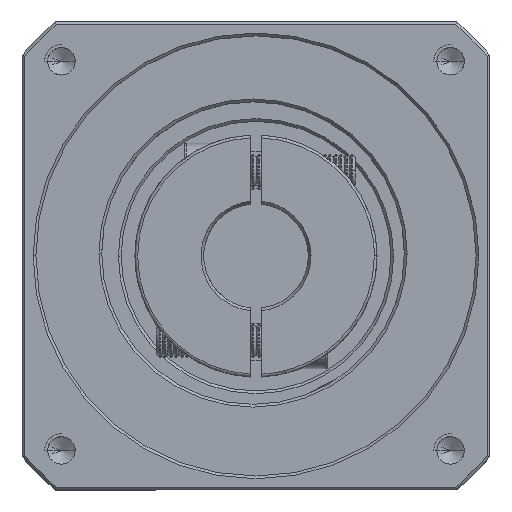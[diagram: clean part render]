
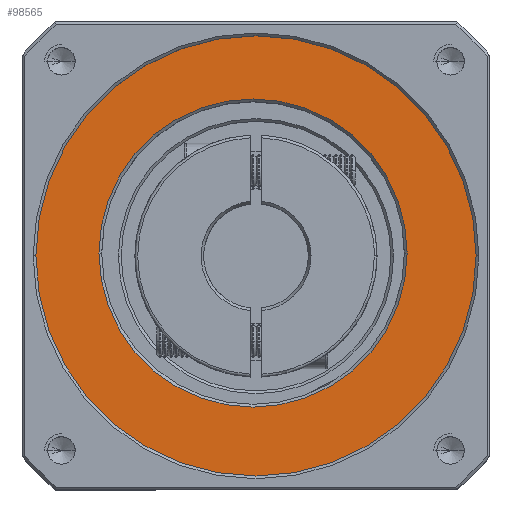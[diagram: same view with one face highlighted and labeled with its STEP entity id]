
A CAD part, top view. The second image highlights one B-rep face of the part: STEP entity #98565.
In plain terms, the highlighted planar face has unit normal (0, 0, 1).
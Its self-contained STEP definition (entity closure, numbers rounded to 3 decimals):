
#2171 = AXIS2_PLACEMENT_3D ( 'NONE', #33343, #98642, #42734 ) ;
#2364 = CARTESIAN_POINT ( 'NONE',  ( -77.067, 68.253, -61.843 ) ) ;
#2722 = CARTESIAN_POINT ( 'NONE',  ( -37.609, 68.787, -61.843 ) ) ;
#8242 = CARTESIAN_POINT ( 'NONE',  ( -65.609, 68.787, -61.843 ) ) ;
#9097 = FACE_OUTER_BOUND ( 'NONE', #119238, .T. ) ;
#9715 = CARTESIAN_POINT ( 'NONE',  ( -9.609, 68.787, -61.843 ) ) ;
#12129 = DIRECTION ( 'NONE',  ( 1., 0., 0. ) ) ;
#20845 = ORIENTED_EDGE ( 'NONE', *, *, #98331, .T. ) ;
#25222 = DIRECTION ( 'NONE',  ( 0., 0., 1. ) ) ;
#26428 = EDGE_CURVE ( 'NONE', #73227, #115757, #32576, .T. ) ;
#28482 = AXIS2_PLACEMENT_3D ( 'NONE', #81286, #25222, #90607 ) ;
#30321 = DIRECTION ( 'NONE',  ( 0., 0., -1. ) ) ;
#30411 = AXIS2_PLACEMENT_3D ( 'NONE', #34680, #99943, #44098 ) ;
#32576 = CIRCLE ( 'NONE', #30411, 40. ) ;
#33343 = CARTESIAN_POINT ( 'NONE',  ( -37.067, 68.253, -61.843 ) ) ;
#33994 = AXIS2_PLACEMENT_3D ( 'NONE', #86323, #30321, #95641 ) ;
#34680 = CARTESIAN_POINT ( 'NONE',  ( -37.067, 68.253, -61.843 ) ) ;
#36374 = EDGE_CURVE ( 'NONE', #115757, #73227, #44017, .T. ) ;
#36763 = CIRCLE ( 'NONE', #119344, 28. ) ;
#42734 = DIRECTION ( 'NONE',  ( 1., 0., 0. ) ) ;
#44017 = CIRCLE ( 'NONE', #28482, 40. ) ;
#44098 = DIRECTION ( 'NONE',  ( 1., 0., 0. ) ) ;
#50157 = ORIENTED_EDGE ( 'NONE', *, *, #36374, .T. ) ;
#50217 = CARTESIAN_POINT ( 'NONE',  ( 2.933, 68.253, -61.843 ) ) ;
#57492 = CIRCLE ( 'NONE', #33994, 28. ) ;
#63312 = ORIENTED_EDGE ( 'NONE', *, *, #26428, .T. ) ;
#68214 = DIRECTION ( 'NONE',  ( 0., 0., -1. ) ) ;
#69728 = VERTEX_POINT ( 'NONE', #8242 ) ;
#73227 = VERTEX_POINT ( 'NONE', #2364 ) ;
#74339 = EDGE_CURVE ( 'NONE', #69728, #81310, #57492, .T. ) ;
#81286 = CARTESIAN_POINT ( 'NONE',  ( -37.067, 68.253, -61.843 ) ) ;
#81310 = VERTEX_POINT ( 'NONE', #9715 ) ;
#83712 = ORIENTED_EDGE ( 'NONE', *, *, #74339, .T. ) ;
#86323 = CARTESIAN_POINT ( 'NONE',  ( -37.609, 68.787, -61.843 ) ) ;
#90157 = EDGE_LOOP ( 'NONE', ( #20845, #83712 ) ) ;
#90607 = DIRECTION ( 'NONE',  ( 1., 0., 0. ) ) ;
#95641 = DIRECTION ( 'NONE',  ( 1., 0., 0. ) ) ;
#98331 = EDGE_CURVE ( 'NONE', #81310, #69728, #36763, .T. ) ;
#98565 = ADVANCED_FACE ( 'NONE', ( #9097, #105465 ), #116880, .T. ) ;
#98642 = DIRECTION ( 'NONE',  ( 0., 0., 1. ) ) ;
#99943 = DIRECTION ( 'NONE',  ( 0., 0., 1. ) ) ;
#105465 = FACE_BOUND ( 'NONE', #90157, .T. ) ;
#115757 = VERTEX_POINT ( 'NONE', #50217 ) ;
#116880 = PLANE ( 'NONE',  #2171 ) ;
#119238 = EDGE_LOOP ( 'NONE', ( #50157, #63312 ) ) ;
#119344 = AXIS2_PLACEMENT_3D ( 'NONE', #2722, #68214, #12129 ) ;
